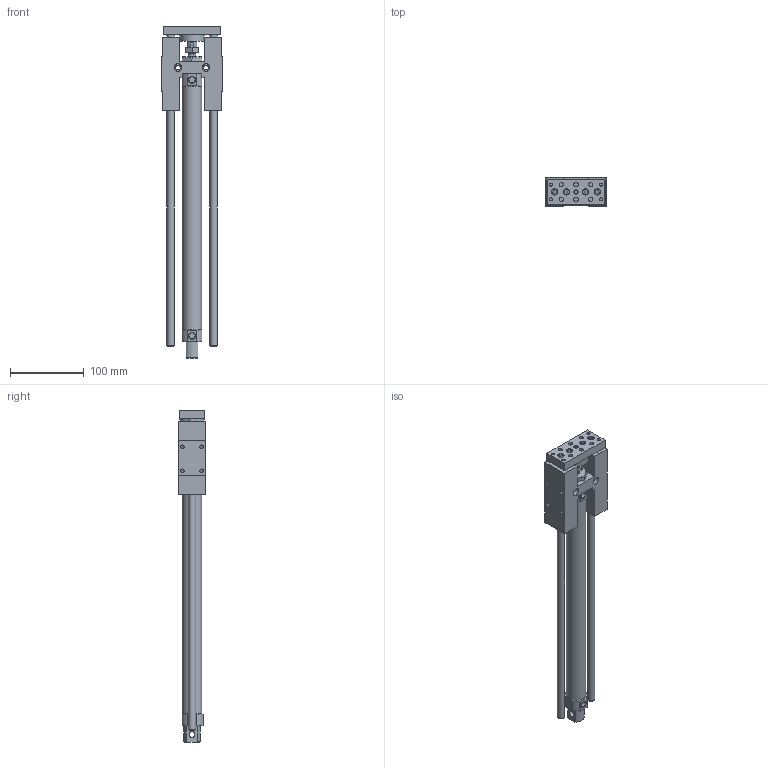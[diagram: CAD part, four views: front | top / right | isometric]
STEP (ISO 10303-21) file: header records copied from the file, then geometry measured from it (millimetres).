
FILE_DESCRIPTION((''),'2;1');
FILE_NAME('I:\3D電子目錄\氣缸\GHB(U)\GHB(U)\GHB(U)25\GHB(U)25x300.stp','2007-10-22T16:52:22',('Administrator'),(''),'Autodesk Inventor 11','Autodesk Inventor 11','');
FILE_SCHEMA(('AUTOMOTIVE_DESIGN { 1 0 10303 214 1 1 1 1 }'));
Length unit declared in the file: millimetre
Products named in the file (1): GHB(U)25
Bounding box: 82 x 38 x 451 mm (x, y, z)
Volume: 504058.3 mm3; surface area: 100518.8 mm2
Topology: 1 solids, 1 shells, 230 faces, 542 edges, 352 vertices
Faces by surface type: plane 131, cylinder 38, bspline 36, cone 25
Full cylindrical faces by diameter (mm): 4.917 x4, 5 x1, 6 x5, 7.5 x4, 8 x1, 8.5 x6, 8.6 x1, 10 x3, 13 x1, 26.6 x1, 33 x1
Entity records: 6522 total; most frequent: CARTESIAN_POINT 1583, DIRECTION 974, ORIENTED_EDGE 928, EDGE_CURVE 464, EDGE_LOOP 358, AXIS2_PLACEMENT_3D 347, VERTEX_POINT 338, VECTOR 280
